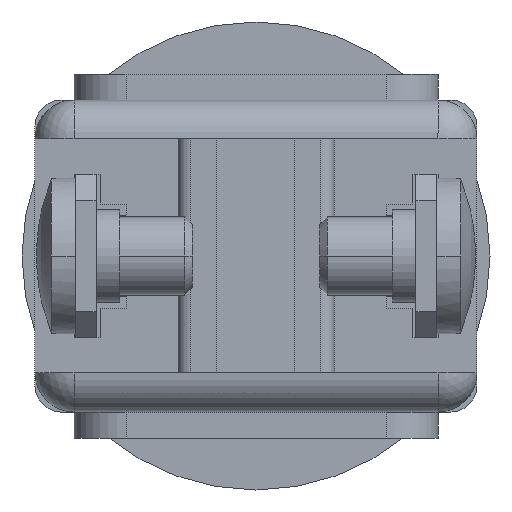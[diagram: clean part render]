
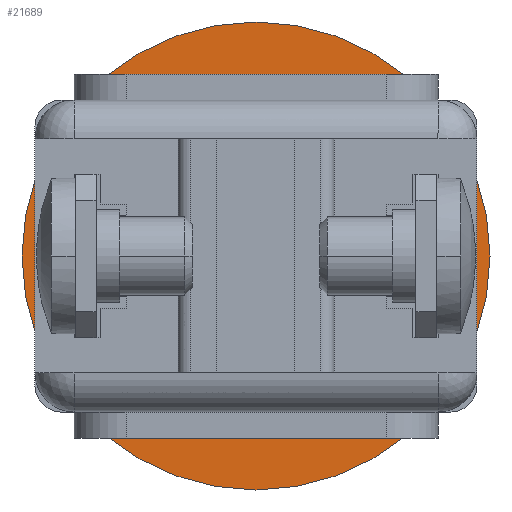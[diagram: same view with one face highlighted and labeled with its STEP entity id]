
A CAD part, front view. The second image highlights one B-rep face of the part: STEP entity #21689.
In plain terms, the highlighted planar face has unit normal (0, -1, 0).
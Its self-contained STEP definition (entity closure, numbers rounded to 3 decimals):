
#21538=CARTESIAN_POINT('',(0.,10.9,0.));
#21539=DIRECTION('',(0.,-1.,0.));
#21540=DIRECTION('',(-1.,0.,0.));
#21541=AXIS2_PLACEMENT_3D('',#21538,#21539,#21540);
#21543=CARTESIAN_POINT('',(0.,10.9,0.));
#21544=DIRECTION('',(0.,1.,0.));
#21545=DIRECTION('',(-1.,0.,0.));
#21546=AXIS2_PLACEMENT_3D('',#21543,#21544,#21545);
#21548=CARTESIAN_POINT('',(0.,10.9,0.));
#21549=DIRECTION('',(0.,-1.,0.));
#21550=DIRECTION('',(1.,0.,0.));
#21551=AXIS2_PLACEMENT_3D('',#21548,#21549,#21550);
#21553=CARTESIAN_POINT('',(0.,10.9,0.));
#21554=DIRECTION('',(0.,-1.,0.));
#21555=DIRECTION('',(-1.,0.,0.));
#21556=AXIS2_PLACEMENT_3D('',#21553,#21554,#21555);
#21580=CARTESIAN_POINT('',(-9.,10.9,0.));
#21581=VERTEX_POINT('',#21580);
#21586=CARTESIAN_POINT('',(9.,10.9,0.));
#21587=VERTEX_POINT('',#21586);
#21596=CARTESIAN_POINT('',(6.145,10.9,0.));
#21597=CARTESIAN_POINT('',(-6.145,10.9,0.));
#21598=VERTEX_POINT('',#21596);
#21599=VERTEX_POINT('',#21597);
#21674=CARTESIAN_POINT('',(0.,10.9,0.));
#21675=DIRECTION('',(0.,-1.,0.));
#21676=DIRECTION('',(-1.,0.,0.));
#21677=AXIS2_PLACEMENT_3D('',#21674,#21675,#21676);
#21678=PLANE('',#21677);
#21679=ORIENTED_EDGE('',*,*,#21653,.F.);
#21680=ORIENTED_EDGE('',*,*,#21669,.T.);
#21681=EDGE_LOOP('',(#21679,#21680));
#21682=FACE_OUTER_BOUND('',#21681,.F.);
#21684=ORIENTED_EDGE('',*,*,#21683,.T.);
#21686=ORIENTED_EDGE('',*,*,#21685,.T.);
#21687=EDGE_LOOP('',(#21684,#21686));
#21688=FACE_BOUND('',#21687,.F.);
#21542=CIRCLE('',#21541,9.);
#21547=CIRCLE('',#21546,9.);
#21552=CIRCLE('',#21551,6.145);
#21557=CIRCLE('',#21556,6.145);
#21653=EDGE_CURVE('',#21581,#21587,#21542,.T.);
#21669=EDGE_CURVE('',#21581,#21587,#21547,.T.);
#21683=EDGE_CURVE('',#21598,#21599,#21552,.T.);
#21685=EDGE_CURVE('',#21599,#21598,#21557,.T.);
#21689=ADVANCED_FACE('',(#21682,#21688),#21678,.T.);
